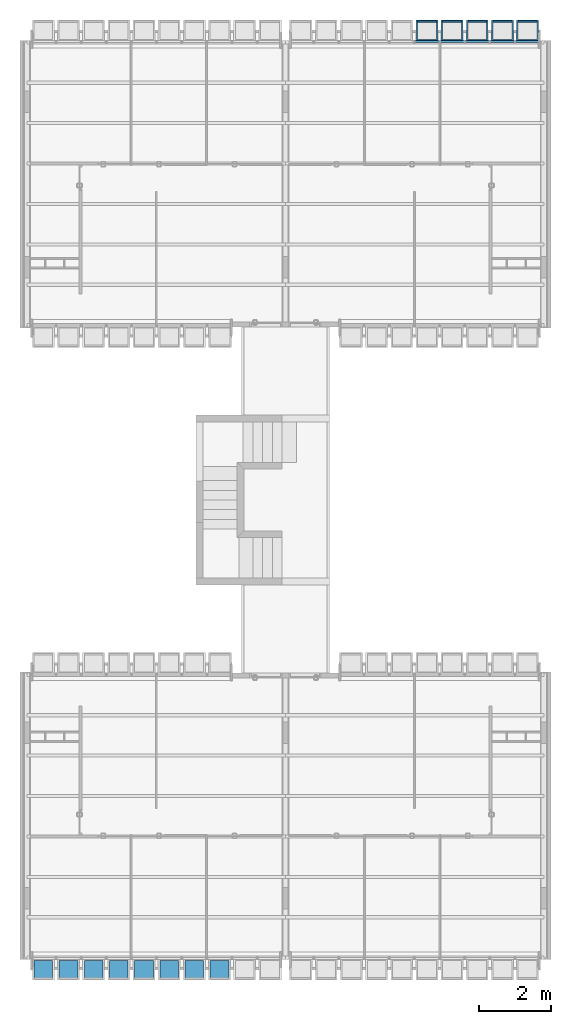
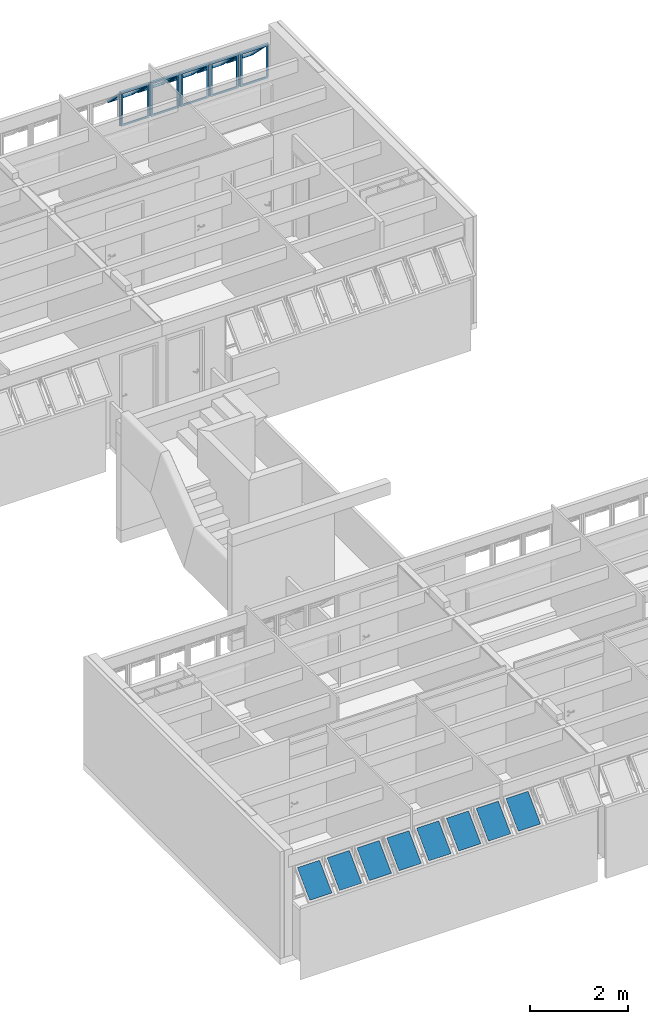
# One storey, part 34 of 37: 13 building element parts, 15 elements without a shape of their own.
"""IFC2X3 building model written with IfcOpenShell, lengths in millimetres."""

from ifc_helpers import new_model, entity, si_unit, converted_unit, derived_unit, money_unit, direction, frame, origin_with_axes, place, context, subcontext, project, spatial, faceted_brep, source, transform, mapped, material, type_object, element, aggregate, save


model = new_model("IFC2X3")

# Units and contexts
model_context = context("Model", 3, precision=0.01, world=origin_with_axes(), true_north=direction((0.0, 1.0)))
body_context = subcontext(model_context, "Body", "Model", "MODEL_VIEW")
ifc_project = project(units=[si_unit("LENGTHUNIT", "METRE", prefix="MILLI"), si_unit("AREAUNIT", "SQUARE_METRE"), si_unit("VOLUMEUNIT", "CUBIC_METRE"), converted_unit("PLANEANGLEUNIT", "DEGREE", entity("IfcPlaneAngleMeasure", 0.0174532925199), si_unit("PLANEANGLEUNIT", "RADIAN"), dimensions=[0, 0, 0, 0, 0, 0, 0]), money_unit("USD"), converted_unit("TIMEUNIT", "Year", entity("IfcTimeMeasure", 31556926.0), si_unit("TIMEUNIT", "SECOND"), dimensions=[0, 0, 1, 0, 0, 0, 0]), si_unit("MASSUNIT", "GRAM", prefix="KILO"), si_unit("THERMODYNAMICTEMPERATUREUNIT", "DEGREE_CELSIUS"), si_unit("LUMINOUSINTENSITYUNIT", "LUMEN"), si_unit("ENERGYUNIT", "JOULE", prefix="MEGA"), derived_unit("THERMALCONDUCTANCEUNIT", [(si_unit("POWERUNIT", "WATT"), 1), (si_unit("LENGTHUNIT", "METRE"), -1), (si_unit("THERMODYNAMICTEMPERATUREUNIT", "KELVIN"), -1)]), derived_unit("SPECIFICHEATCAPACITYUNIT", [(si_unit("ENERGYUNIT", "JOULE"), 1), (si_unit("MASSUNIT", "GRAM", prefix="KILO"), -1), (si_unit("THERMODYNAMICTEMPERATUREUNIT", "KELVIN"), -1)]), derived_unit("MASSDENSITYUNIT", [(si_unit("MASSUNIT", "GRAM", prefix="KILO"), 1), (si_unit("VOLUMEUNIT", "CUBIC_METRE"), -1)])], contexts=[model_context])

# Site, building, storey
site_placement = place(None, origin_with_axes())
site = spatial("IfcSite", under=ifc_project, at=site_placement, Name="Local", CompositionType="ELEMENT")
building_placement = place(site_placement, origin_with_axes())
building = spatial("IfcBuilding", under=site, at=building_placement, Name="Construção", CompositionType="ELEMENT")
storey_placement = place(building_placement, origin_with_axes())
storey = spatial("IfcBuildingStorey", under=building, at=storey_placement, Name="Primeiro Pavimento", CompositionType="ELEMENT", Elevation=0.0)

# Window, plate, building element part
window_style = type_object("IfcWindowStyle", Name="Tipo de Parede Cortina", ConstructionType="NOTDEFINED", OperationType="NOTDEFINED", ParameterTakesPrecedence=False, Sizeable=False)
window_1_placement = place(storey_placement, frame((8520.0, 25844.9790225, 1355.02054151), z_axis=(0.0, 0.0, 1.0), x_axis=(1.0, 0.0, 0.0)))
window_1 = element("IfcWindow", 1, at=window_1_placement, inside=storey, type_object=window_style, Name="APTO4-JANELA-001")
plate_type = type_object("IfcPlateType", Name="Painel Principal 690 x 845 x 20", PredefinedType="CURTAIN_PANEL")
plate_1_placement = place(window_1_placement, frame((3500.0, 0.0, 422.499945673), z_axis=(0.0, 0.0, 1.0), x_axis=(1.0, 0.0, 0.0)))
plate_1 = element("IfcPlate", 2, at=plate_1_placement, type_object=plate_type, Name="APTO4-Painel-Prin-013")
ifc_material_1 = material(Name="Alumínio")
shared_shape_1 = source(origin_with_axes(), body_context, "Body", "Brep", [
    faceted_brep([(25.0000036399, 0.0, -40.0), (674.999997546, 0.0, -40.0), (674.999997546, 0.0, -35.0), (25.0000036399, 0.0, -35.0), (70.0000036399, 45.0, -40.0), (629.999997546, 45.0, -40.0), (629.999997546, 45.0, -35.0), (70.0000036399, 45.0, -35.0)], [[[0, 1, 2, 3]], [[0, 4, 5, 1]], [[1, 5, 6, 2]], [[3, 2, 6, 7]], [[4, 0, 3, 7]], [[5, 4, 7, 6]]]),
    faceted_brep([(674.999997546, 0.0, -40.0), (674.999997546, 844.999891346, -40.0), (674.999997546, 844.999891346, -35.0), (674.999997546, 0.0, -35.0), (629.999997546, 45.0, -40.0), (629.999997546, 799.999891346, -40.0), (629.999997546, 799.999891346, -35.0), (629.999997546, 45.0, -35.0)], [[[0, 1, 2, 3]], [[0, 4, 5, 1]], [[1, 5, 6, 2]], [[3, 2, 6, 7]], [[4, 0, 3, 7]], [[5, 4, 7, 6]]]),
    faceted_brep([(25.0000036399, 844.999891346, -40.0), (70.0000036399, 799.999891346, -40.0), (70.0000036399, 799.999891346, -35.0), (25.0000036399, 844.999891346, -35.0), (674.999997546, 844.999891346, -40.0), (629.999997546, 799.999891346, -40.0), (629.999997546, 799.999891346, -35.0), (674.999997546, 844.999891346, -35.0)], [[[0, 1, 2, 3]], [[0, 4, 5, 1]], [[1, 5, 6, 2]], [[3, 2, 6, 7]], [[4, 0, 3, 7]], [[5, 4, 7, 6]]]),
    faceted_brep([(25.0000036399, 0.0, -40.0), (70.0000036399, 45.0, -40.0), (70.0000036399, 45.0, -35.0), (25.0000036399, 0.0, -35.0), (25.0000036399, 844.999891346, -40.0), (70.0000036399, 799.999891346, -40.0), (70.0000036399, 799.999891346, -35.0), (25.0000036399, 844.999891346, -35.0)], [[[0, 1, 2, 3]], [[0, 4, 5, 1]], [[1, 5, 6, 2]], [[3, 2, 6, 7]], [[4, 0, 3, 7]], [[5, 4, 7, 6]]]),
    faceted_brep([(25.0000036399, 0.0, -35.0), (674.999997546, 0.0, -35.0), (674.999997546, 0.0, 15.0), (25.0000036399, 0.0, 15.0), (45.0000036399, 20.0, -35.0), (654.999997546, 20.0, -35.0), (654.999997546, 20.0, 15.0), (45.0000036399, 20.0, 15.0)], [[[0, 1, 2, 3]], [[0, 4, 5, 1]], [[1, 5, 6, 2]], [[3, 2, 6, 7]], [[4, 0, 3, 7]], [[5, 4, 7, 6]]]),
    faceted_brep([(674.999997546, 0.0, -35.0), (674.999997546, 844.999891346, -35.0), (674.999997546, 844.999891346, 15.0), (674.999997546, 0.0, 15.0), (654.999997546, 20.0, -35.0), (654.999997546, 824.999891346, -35.0), (654.999997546, 824.999891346, 15.0), (654.999997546, 20.0, 15.0)], [[[0, 1, 2, 3]], [[0, 4, 5, 1]], [[1, 5, 6, 2]], [[3, 2, 6, 7]], [[4, 0, 3, 7]], [[5, 4, 7, 6]]]),
    faceted_brep([(25.0000036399, 844.999891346, -35.0), (45.0000036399, 824.999891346, -35.0), (45.0000036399, 824.999891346, 15.0), (25.0000036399, 844.999891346, 15.0), (674.999997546, 844.999891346, -35.0), (654.999997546, 824.999891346, -35.0), (654.999997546, 824.999891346, 15.0), (674.999997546, 844.999891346, 15.0)], [[[0, 1, 2, 3]], [[0, 4, 5, 1]], [[1, 5, 6, 2]], [[3, 2, 6, 7]], [[4, 0, 3, 7]], [[5, 4, 7, 6]]]),
    faceted_brep([(25.0000036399, 0.0, -35.0), (45.0000036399, 20.0, -35.0), (45.0000036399, 20.0, 15.0), (25.0000036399, 0.0, 15.0), (25.0000036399, 844.999891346, -35.0), (45.0000036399, 824.999891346, -35.0), (45.0000036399, 824.999891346, 15.0), (25.0000036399, 844.999891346, 15.0)], [[[0, 1, 2, 3]], [[0, 4, 5, 1]], [[1, 5, 6, 2]], [[3, 2, 6, 7]], [[4, 0, 3, 7]], [[5, 4, 7, 6]]]),
    faceted_brep([(694.999995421, 0.0, -10.0), (694.999995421, 844.999891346, -10.0), (694.999995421, 844.999891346, 10.0), (694.999995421, 0.0, 10.0), (674.999997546, 0.0, -10.0), (674.999997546, 844.999891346, -10.0), (674.999997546, 844.999891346, 10.0), (674.999997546, 0.0, 10.0)], [[[0, 1, 2, 3]], [[0, 4, 5, 1]], [[1, 5, 6, 2]], [[3, 2, 6, 7]], [[4, 0, 3, 7]], [[5, 4, 7, 6]]]),
    faceted_brep([(5.00000576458, 844.999891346, -10.0), (5.00000576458, 0.0, -10.0), (5.00000576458, 0.0, 10.0), (5.00000576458, 844.999891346, 10.0), (25.0000036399, 844.999891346, -10.0), (25.0000036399, 0.0, -10.0), (25.0000036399, 0.0, 10.0), (25.0000036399, 844.999891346, 10.0)], [[[0, 1, 2, 3]], [[0, 4, 5, 1]], [[1, 5, 6, 2]], [[3, 2, 6, 7]], [[4, 0, 3, 7]], [[5, 4, 7, 6]]]),
    faceted_brep([(90.0000036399, 252.243475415, 517.045737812), (90.0000036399, 757.824747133, 11.4644660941), (90.0000036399, 796.715620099, 50.3553390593), (90.0000036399, 291.13434838, 555.936610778), (45.0000036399, 220.423670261, 548.865542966), (45.0000036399, 789.644552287, -20.3553390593), (45.0000036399, 828.535425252, 18.5355339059), (45.0000036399, 259.314543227, 587.756415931)], [[[0, 1, 2, 3]], [[0, 4, 5, 1]], [[1, 5, 6, 2]], [[3, 2, 6, 7]], [[4, 0, 3, 7]], [[5, 4, 7, 6]]]),
    faceted_brep([(654.999997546, 220.423670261, 548.865542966), (654.999997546, 789.644552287, -20.3553390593), (654.999997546, 828.535425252, 18.5355339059), (654.999997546, 259.314543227, 587.756415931), (609.999997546, 252.243475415, 517.045737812), (609.999997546, 757.824747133, 11.4644660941), (609.999997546, 796.715620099, 50.3553390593), (609.999997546, 291.13434838, 555.936610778)], [[[0, 1, 2, 3]], [[0, 4, 5, 1]], [[1, 5, 6, 2]], [[3, 2, 6, 7]], [[4, 0, 3, 7]], [[5, 4, 7, 6]]]),
    faceted_brep([(654.999997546, 220.423670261, 548.865542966), (609.999997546, 252.243475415, 517.045737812), (609.999997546, 291.13434838, 555.936610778), (654.999997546, 259.314543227, 587.756415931), (45.0000036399, 220.423670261, 548.865542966), (90.0000036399, 252.243475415, 517.045737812), (90.0000036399, 291.13434838, 555.936610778), (45.0000036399, 259.314543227, 587.756415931)], [[[0, 1, 2, 3]], [[0, 4, 5, 1]], [[1, 5, 6, 2]], [[3, 2, 6, 7]], [[4, 0, 3, 7]], [[5, 4, 7, 6]]]),
    faceted_brep([(45.0000036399, 789.644552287, -20.3553390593), (90.0000036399, 757.824747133, 11.4644660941), (90.0000036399, 796.715620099, 50.3553390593), (45.0000036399, 828.535425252, 18.5355339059), (654.999997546, 789.644552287, -20.3553390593), (609.999997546, 757.824747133, 11.4644660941), (609.999997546, 796.715620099, 50.3553390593), (654.999997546, 828.535425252, 18.5355339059)], [[[0, 1, 2, 3]], [[0, 4, 5, 1]], [[1, 5, 6, 2]], [[3, 2, 6, 7]], [[4, 0, 3, 7]], [[5, 4, 7, 6]]]),
])
building_element_part_1_placement = place(plate_1_placement, origin_with_axes())
building_element_part_1 = element("IfcBuildingElementPart", 3, at=building_element_part_1_placement, material=ifc_material_1, Name="Alumínio", context=body_context, shape_type="MappedRepresentation", body=[
    mapped(shared_shape_1, transform((350.0, 0.0, -422.499945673), x_axis=(-1.0, 0.0, 0.0), y_axis=(0.0, 0.0, 1.0), z_axis=(0.0, 1.0, 0.0))),
])
aggregate(plate_1, [building_element_part_1])

# Window, plates, building element parts
window_2_placement = place(storey_placement, frame((294.999984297, 315.020977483, 1355.02054151), z_axis=(0.0, 0.0, 1.0), x_axis=(1.0, 0.0, 0.0)))
window_2 = element("IfcWindow", 4, at=window_2_placement, inside=storey, type_object=window_style, Name="APTO1-JANELA-001")
plate_2_placement = place(window_2_placement, frame((2455.0000157, 0.0, 422.499945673), z_axis=(0.0, 0.0, 1.0), x_axis=(-1.0, 0.0, 0.0)))
plate_2 = element("IfcPlate", 5, at=plate_2_placement, type_object=plate_type, Name="APTO1-Painel-Prin-013")
ifc_material_2 = material(Name="Vidro")
shared_shape_2 = source(origin_with_axes(), body_context, "Body", "Brep", [
    faceted_brep([(90.0000036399, 272.749572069, 537.551834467), (609.999997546, 272.749572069, 537.551834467), (609.999997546, 284.063280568, 548.865542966), (90.0000036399, 284.063280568, 548.865542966), (90.0000036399, 778.330843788, 31.9705627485), (609.999997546, 778.330843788, 31.9705627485), (609.999997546, 789.644552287, 43.2842712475), (90.0000036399, 789.644552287, 43.2842712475)], [[[0, 1, 2, 3]], [[0, 4, 5, 1]], [[1, 5, 6, 2]], [[3, 2, 6, 7]], [[4, 0, 3, 7]], [[5, 4, 7, 6]]]),
])
building_element_part_2_placement = place(plate_2_placement, origin_with_axes())
building_element_part_2 = element("IfcBuildingElementPart", 6, at=building_element_part_2_placement, material=ifc_material_2, Name="Vidro", context=body_context, shape_type="MappedRepresentation", body=[
    mapped(shared_shape_2, transform((350.0, 0.0, -422.499945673), x_axis=(-1.0, 0.0, 0.0), y_axis=(0.0, 0.0, 1.0), z_axis=(0.0, 1.0, 0.0))),
])
aggregate(plate_2, [building_element_part_2])
plate_3_placement = place(window_2_placement, frame((4555.0000157, 0.0, 422.499945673), z_axis=(0.0, 0.0, 1.0), x_axis=(-1.0, 0.0, 0.0)))
plate_3 = element("IfcPlate", 7, at=plate_3_placement, type_object=plate_type, Name="APTO1-Painel-Prin-029")
building_element_part_3_placement = place(plate_3_placement, origin_with_axes())
building_element_part_3 = element("IfcBuildingElementPart", 8, at=building_element_part_3_placement, material=ifc_material_2, Name="Vidro", context=body_context, shape_type="MappedRepresentation", body=[
    mapped(shared_shape_2, transform((350.0, 0.0, -422.499945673), x_axis=(-1.0, 0.0, 0.0), y_axis=(0.0, 0.0, 1.0), z_axis=(0.0, 1.0, 0.0))),
])
aggregate(plate_3, [building_element_part_3])
plate_4_placement = place(window_2_placement, frame((5255.0000157, 0.0, 422.499945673), z_axis=(0.0, 0.0, 1.0), x_axis=(-1.0, 0.0, 0.0)))
plate_4 = element("IfcPlate", 9, at=plate_4_placement, type_object=plate_type, Name="APTO1-Painel-Prin-020")
building_element_part_4_placement = place(plate_4_placement, origin_with_axes())
building_element_part_4 = element("IfcBuildingElementPart", 10, at=building_element_part_4_placement, material=ifc_material_2, Name="Vidro", context=body_context, shape_type="MappedRepresentation", body=[
    mapped(shared_shape_2, transform((350.0, 0.0, -422.499945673), x_axis=(-1.0, 0.0, 0.0), y_axis=(0.0, 0.0, 1.0), z_axis=(0.0, 1.0, 0.0))),
])
aggregate(plate_4, [building_element_part_4])

# Plate, building element part
plate_5_placement = place(window_1_placement, frame((5600.0, 0.0, 422.499945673), z_axis=(0.0, 0.0, 1.0), x_axis=(1.0, 0.0, 0.0)))
plate_5 = element("IfcPlate", 11, at=plate_5_placement, type_object=plate_type, Name="APTO4-Painel-Prin-013")
shared_shape_3 = source(origin_with_axes(), body_context, "Body", "Brep", [
    faceted_brep([(25.0000036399, 0.0, -40.0), (674.999997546, 0.0, -40.0), (674.999997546, 0.0, -35.0), (25.0000036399, 0.0, -35.0), (70.0000036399, 45.0, -40.0), (629.999997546, 45.0, -40.0), (629.999997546, 45.0, -35.0), (70.0000036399, 45.0, -35.0)], [[[0, 1, 2, 3]], [[0, 4, 5, 1]], [[1, 5, 6, 2]], [[3, 2, 6, 7]], [[4, 0, 3, 7]], [[5, 4, 7, 6]]]),
    faceted_brep([(674.999997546, 0.0, -40.0), (674.999997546, 844.999891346, -40.0), (674.999997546, 844.999891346, -35.0), (674.999997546, 0.0, -35.0), (629.999997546, 45.0, -40.0), (629.999997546, 799.999891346, -40.0), (629.999997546, 799.999891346, -35.0), (629.999997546, 45.0, -35.0)], [[[0, 1, 2, 3]], [[0, 4, 5, 1]], [[1, 5, 6, 2]], [[3, 2, 6, 7]], [[4, 0, 3, 7]], [[5, 4, 7, 6]]]),
    faceted_brep([(25.0000036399, 844.999891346, -40.0), (70.0000036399, 799.999891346, -40.0), (70.0000036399, 799.999891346, -35.0), (25.0000036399, 844.999891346, -35.0), (674.999997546, 844.999891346, -40.0), (629.999997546, 799.999891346, -40.0), (629.999997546, 799.999891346, -35.0), (674.999997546, 844.999891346, -35.0)], [[[0, 1, 2, 3]], [[0, 4, 5, 1]], [[1, 5, 6, 2]], [[3, 2, 6, 7]], [[4, 0, 3, 7]], [[5, 4, 7, 6]]]),
    faceted_brep([(25.0000036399, 0.0, -40.0), (70.0000036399, 45.0, -40.0), (70.0000036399, 45.0, -35.0), (25.0000036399, 0.0, -35.0), (25.0000036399, 844.999891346, -40.0), (70.0000036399, 799.999891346, -40.0), (70.0000036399, 799.999891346, -35.0), (25.0000036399, 844.999891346, -35.0)], [[[0, 1, 2, 3]], [[0, 4, 5, 1]], [[1, 5, 6, 2]], [[3, 2, 6, 7]], [[4, 0, 3, 7]], [[5, 4, 7, 6]]]),
    faceted_brep([(25.0000036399, 0.0, -35.0), (674.999997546, 0.0, -35.0), (674.999997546, 0.0, 15.0), (25.0000036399, 0.0, 15.0), (45.0000036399, 20.0, -35.0), (654.999997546, 20.0, -35.0), (654.999997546, 20.0, 15.0), (45.0000036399, 20.0, 15.0)], [[[0, 1, 2, 3]], [[0, 4, 5, 1]], [[1, 5, 6, 2]], [[3, 2, 6, 7]], [[4, 0, 3, 7]], [[5, 4, 7, 6]]]),
    faceted_brep([(674.999997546, 0.0, -35.0), (674.999997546, 844.999891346, -35.0), (674.999997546, 844.999891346, 15.0), (674.999997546, 0.0, 15.0), (654.999997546, 20.0, -35.0), (654.999997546, 824.999891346, -35.0), (654.999997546, 824.999891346, 15.0), (654.999997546, 20.0, 15.0)], [[[0, 1, 2, 3]], [[0, 4, 5, 1]], [[1, 5, 6, 2]], [[3, 2, 6, 7]], [[4, 0, 3, 7]], [[5, 4, 7, 6]]]),
    faceted_brep([(25.0000036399, 844.999891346, -35.0), (45.0000036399, 824.999891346, -35.0), (45.0000036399, 824.999891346, 15.0), (25.0000036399, 844.999891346, 15.0), (674.999997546, 844.999891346, -35.0), (654.999997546, 824.999891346, -35.0), (654.999997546, 824.999891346, 15.0), (674.999997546, 844.999891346, 15.0)], [[[0, 1, 2, 3]], [[0, 4, 5, 1]], [[1, 5, 6, 2]], [[3, 2, 6, 7]], [[4, 0, 3, 7]], [[5, 4, 7, 6]]]),
    faceted_brep([(25.0000036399, 0.0, -35.0), (45.0000036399, 20.0, -35.0), (45.0000036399, 20.0, 15.0), (25.0000036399, 0.0, 15.0), (25.0000036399, 844.999891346, -35.0), (45.0000036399, 824.999891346, -35.0), (45.0000036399, 824.999891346, 15.0), (25.0000036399, 844.999891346, 15.0)], [[[0, 1, 2, 3]], [[0, 4, 5, 1]], [[1, 5, 6, 2]], [[3, 2, 6, 7]], [[4, 0, 3, 7]], [[5, 4, 7, 6]]]),
    faceted_brep([(694.999995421, 0.0, -10.0), (694.999995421, 844.999891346, -10.0), (694.999995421, 844.999891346, 10.0), (694.999995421, 0.0, 10.0), (674.999997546, 0.0, -10.0), (674.999997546, 844.999891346, -10.0), (674.999997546, 844.999891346, 10.0), (674.999997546, 0.0, 10.0)], [[[0, 1, 2, 3]], [[0, 4, 5, 1]], [[1, 5, 6, 2]], [[3, 2, 6, 7]], [[4, 0, 3, 7]], [[5, 4, 7, 6]]]),
    faceted_brep([(5.00000576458, 844.999891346, -10.0), (5.00000576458, 0.0, -10.0), (5.00000576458, 0.0, 10.0), (5.00000576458, 844.999891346, 10.0), (25.0000036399, 844.999891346, -10.0), (25.0000036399, 0.0, -10.0), (25.0000036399, 0.0, 10.0), (25.0000036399, 844.999891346, 10.0)], [[[0, 1, 2, 3]], [[0, 4, 5, 1]], [[1, 5, 6, 2]], [[3, 2, 6, 7]], [[4, 0, 3, 7]], [[5, 4, 7, 6]]]),
    faceted_brep([(90.0000036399, 252.243475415, 517.045737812), (90.0000036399, 757.824747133, 11.4644660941), (90.0000036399, 796.715620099, 50.3553390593), (90.0000036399, 291.13434838, 555.936610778), (45.0000036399, 220.423670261, 548.865542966), (45.0000036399, 789.644552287, -20.3553390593), (45.0000036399, 828.535425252, 18.5355339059), (45.0000036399, 259.314543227, 587.756415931)], [[[0, 1, 2, 3]], [[0, 4, 5, 1]], [[1, 5, 6, 2]], [[3, 2, 6, 7]], [[4, 0, 3, 7]], [[5, 4, 7, 6]]]),
    faceted_brep([(654.999997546, 220.423670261, 548.865542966), (654.999997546, 789.644552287, -20.3553390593), (654.999997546, 828.535425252, 18.5355339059), (654.999997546, 259.314543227, 587.756415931), (609.999997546, 252.243475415, 517.045737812), (609.999997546, 757.824747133, 11.4644660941), (609.999997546, 796.715620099, 50.3553390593), (609.999997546, 291.13434838, 555.936610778)], [[[0, 1, 2, 3]], [[0, 4, 5, 1]], [[1, 5, 6, 2]], [[3, 2, 6, 7]], [[4, 0, 3, 7]], [[5, 4, 7, 6]]]),
    faceted_brep([(654.999997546, 220.423670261, 548.865542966), (609.999997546, 252.243475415, 517.045737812), (609.999997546, 291.13434838, 555.936610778), (654.999997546, 259.314543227, 587.756415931), (45.0000036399, 220.423670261, 548.865542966), (90.0000036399, 252.243475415, 517.045737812), (90.0000036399, 291.13434838, 555.936610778), (45.0000036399, 259.314543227, 587.756415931)], [[[0, 1, 2, 3]], [[0, 4, 5, 1]], [[1, 5, 6, 2]], [[3, 2, 6, 7]], [[4, 0, 3, 7]], [[5, 4, 7, 6]]]),
    faceted_brep([(45.0000036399, 789.644552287, -20.3553390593), (90.0000036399, 757.824747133, 11.4644660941), (90.0000036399, 796.715620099, 50.3553390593), (45.0000036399, 828.535425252, 18.5355339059), (654.999997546, 789.644552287, -20.3553390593), (609.999997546, 757.824747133, 11.4644660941), (609.999997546, 796.715620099, 50.3553390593), (654.999997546, 828.535425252, 18.5355339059)], [[[0, 1, 2, 3]], [[0, 4, 5, 1]], [[1, 5, 6, 2]], [[3, 2, 6, 7]], [[4, 0, 3, 7]], [[5, 4, 7, 6]]]),
])
building_element_part_5_placement = place(plate_5_placement, origin_with_axes())
building_element_part_5 = element("IfcBuildingElementPart", 12, at=building_element_part_5_placement, material=ifc_material_1, Name="Alumínio", context=body_context, shape_type="MappedRepresentation", body=[
    mapped(shared_shape_3, transform((350.0, 0.0, -422.499945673), x_axis=(-1.0, 0.0, 0.0), y_axis=(0.0, 0.0, 1.0), z_axis=(0.0, 1.0, 0.0))),
])
aggregate(plate_5, [building_element_part_5])

plate_6_placement = place(window_1_placement, frame((4900.0, 0.0, 422.499945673), z_axis=(0.0, 0.0, 1.0), x_axis=(1.0, 0.0, 0.0)))
plate_6 = element("IfcPlate", 13, at=plate_6_placement, type_object=plate_type, Name="APTO4-Painel-Prin-013")
building_element_part_6_placement = place(plate_6_placement, origin_with_axes())
building_element_part_6 = element("IfcBuildingElementPart", 14, at=building_element_part_6_placement, material=ifc_material_1, Name="Alumínio", context=body_context, shape_type="MappedRepresentation", body=[
    mapped(shared_shape_3, transform((350.0, 0.0, -422.499945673), x_axis=(-1.0, 0.0, 0.0), y_axis=(0.0, 0.0, 1.0), z_axis=(0.0, 1.0, 0.0))),
])
aggregate(plate_6, [building_element_part_6])

plate_7_placement = place(window_2_placement, frame((3855.0000157, 0.0, 422.499945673), z_axis=(0.0, 0.0, 1.0), x_axis=(-1.0, 0.0, 0.0)))
plate_7 = element("IfcPlate", 15, at=plate_7_placement, type_object=plate_type, Name="APTO1-Painel-Prin-025")
shared_shape_4 = source(origin_with_axes(), body_context, "Body", "Brep", [
    faceted_brep([(90.0000036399, 272.749572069, 537.551834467), (609.999997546, 272.749572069, 537.551834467), (609.999997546, 284.063280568, 548.865542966), (90.0000036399, 284.063280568, 548.865542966), (90.0000036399, 778.330843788, 31.9705627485), (609.999997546, 778.330843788, 31.9705627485), (609.999997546, 789.644552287, 43.2842712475), (90.0000036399, 789.644552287, 43.2842712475)], [[[0, 1, 2, 3]], [[0, 4, 5, 1]], [[1, 5, 6, 2]], [[3, 2, 6, 7]], [[4, 0, 3, 7]], [[5, 4, 7, 6]]]),
])
building_element_part_7_placement = place(plate_7_placement, origin_with_axes())
building_element_part_7 = element("IfcBuildingElementPart", 16, at=building_element_part_7_placement, material=ifc_material_2, Name="Vidro", context=body_context, shape_type="MappedRepresentation", body=[
    mapped(shared_shape_4, transform((350.0, 0.0, -422.499945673), x_axis=(-1.0, 0.0, 0.0), y_axis=(0.0, 0.0, 1.0), z_axis=(0.0, 1.0, 0.0))),
])
aggregate(plate_7, [building_element_part_7])

plate_8_placement = place(window_2_placement, frame((1055.0000157, 0.0, 422.499945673), z_axis=(0.0, 0.0, 1.0), x_axis=(-1.0, 0.0, 0.0)))
plate_8 = element("IfcPlate", 17, at=plate_8_placement, type_object=plate_type, Name="APTO1-Painel-Prin-013")
building_element_part_8_placement = place(plate_8_placement, origin_with_axes())
building_element_part_8 = element("IfcBuildingElementPart", 18, at=building_element_part_8_placement, material=ifc_material_2, Name="Vidro", context=body_context, shape_type="MappedRepresentation", body=[
    mapped(shared_shape_4, transform((350.0, 0.0, -422.499945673), x_axis=(-1.0, 0.0, 0.0), y_axis=(0.0, 0.0, 1.0), z_axis=(0.0, 1.0, 0.0))),
])
aggregate(plate_8, [building_element_part_8])

plate_9_placement = place(window_2_placement, frame((355.000015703, 0.0, 422.499945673), z_axis=(0.0, 0.0, 1.0), x_axis=(-1.0, 0.0, 0.0)))
plate_9 = element("IfcPlate", 19, at=plate_9_placement, type_object=plate_type, Name="APTO1-Painel-Prin-013")
building_element_part_9_placement = place(plate_9_placement, origin_with_axes())
building_element_part_9 = element("IfcBuildingElementPart", 20, at=building_element_part_9_placement, material=ifc_material_2, Name="Vidro", context=body_context, shape_type="MappedRepresentation", body=[
    mapped(shared_shape_4, transform((350.0, 0.0, -422.499945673), x_axis=(-1.0, 0.0, 0.0), y_axis=(0.0, 0.0, 1.0), z_axis=(0.0, 1.0, 0.0))),
])
aggregate(plate_9, [building_element_part_9])

plate_10_placement = place(window_1_placement, frame((2800.0, 0.0, 422.499945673), z_axis=(0.0, 0.0, 1.0), x_axis=(1.0, 0.0, 0.0)))
plate_10 = element("IfcPlate", 21, at=plate_10_placement, type_object=plate_type, Name="APTO4-Painel-Prin-013")
shared_shape_5 = source(origin_with_axes(), body_context, "Body", "Brep", [
    faceted_brep([(25.0000036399, 0.0, -40.0), (674.999997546, 0.0, -40.0), (674.999997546, 0.0, -35.0), (25.0000036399, 0.0, -35.0), (70.0000036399, 45.0, -40.0), (629.999997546, 45.0, -40.0), (629.999997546, 45.0, -35.0), (70.0000036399, 45.0, -35.0)], [[[0, 1, 2, 3]], [[0, 4, 5, 1]], [[1, 5, 6, 2]], [[3, 2, 6, 7]], [[4, 0, 3, 7]], [[5, 4, 7, 6]]]),
    faceted_brep([(674.999997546, 0.0, -40.0), (674.999997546, 844.999891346, -40.0), (674.999997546, 844.999891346, -35.0), (674.999997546, 0.0, -35.0), (629.999997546, 45.0, -40.0), (629.999997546, 799.999891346, -40.0), (629.999997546, 799.999891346, -35.0), (629.999997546, 45.0, -35.0)], [[[0, 1, 2, 3]], [[0, 4, 5, 1]], [[1, 5, 6, 2]], [[3, 2, 6, 7]], [[4, 0, 3, 7]], [[5, 4, 7, 6]]]),
    faceted_brep([(25.0000036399, 844.999891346, -40.0), (70.0000036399, 799.999891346, -40.0), (70.0000036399, 799.999891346, -35.0), (25.0000036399, 844.999891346, -35.0), (674.999997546, 844.999891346, -40.0), (629.999997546, 799.999891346, -40.0), (629.999997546, 799.999891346, -35.0), (674.999997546, 844.999891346, -35.0)], [[[0, 1, 2, 3]], [[0, 4, 5, 1]], [[1, 5, 6, 2]], [[3, 2, 6, 7]], [[4, 0, 3, 7]], [[5, 4, 7, 6]]]),
    faceted_brep([(25.0000036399, 0.0, -40.0), (70.0000036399, 45.0, -40.0), (70.0000036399, 45.0, -35.0), (25.0000036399, 0.0, -35.0), (25.0000036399, 844.999891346, -40.0), (70.0000036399, 799.999891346, -40.0), (70.0000036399, 799.999891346, -35.0), (25.0000036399, 844.999891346, -35.0)], [[[0, 1, 2, 3]], [[0, 4, 5, 1]], [[1, 5, 6, 2]], [[3, 2, 6, 7]], [[4, 0, 3, 7]], [[5, 4, 7, 6]]]),
    faceted_brep([(25.0000036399, 0.0, -35.0), (674.999997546, 0.0, -35.0), (674.999997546, 0.0, 15.0), (25.0000036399, 0.0, 15.0), (45.0000036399, 20.0, -35.0), (654.999997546, 20.0, -35.0), (654.999997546, 20.0, 15.0), (45.0000036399, 20.0, 15.0)], [[[0, 1, 2, 3]], [[0, 4, 5, 1]], [[1, 5, 6, 2]], [[3, 2, 6, 7]], [[4, 0, 3, 7]], [[5, 4, 7, 6]]]),
    faceted_brep([(674.999997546, 0.0, -35.0), (674.999997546, 844.999891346, -35.0), (674.999997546, 844.999891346, 15.0), (674.999997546, 0.0, 15.0), (654.999997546, 20.0, -35.0), (654.999997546, 824.999891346, -35.0), (654.999997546, 824.999891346, 15.0), (654.999997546, 20.0, 15.0)], [[[0, 1, 2, 3]], [[0, 4, 5, 1]], [[1, 5, 6, 2]], [[3, 2, 6, 7]], [[4, 0, 3, 7]], [[5, 4, 7, 6]]]),
    faceted_brep([(25.0000036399, 844.999891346, -35.0), (45.0000036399, 824.999891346, -35.0), (45.0000036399, 824.999891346, 15.0), (25.0000036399, 844.999891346, 15.0), (674.999997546, 844.999891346, -35.0), (654.999997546, 824.999891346, -35.0), (654.999997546, 824.999891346, 15.0), (674.999997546, 844.999891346, 15.0)], [[[0, 1, 2, 3]], [[0, 4, 5, 1]], [[1, 5, 6, 2]], [[3, 2, 6, 7]], [[4, 0, 3, 7]], [[5, 4, 7, 6]]]),
    faceted_brep([(25.0000036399, 0.0, -35.0), (45.0000036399, 20.0, -35.0), (45.0000036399, 20.0, 15.0), (25.0000036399, 0.0, 15.0), (25.0000036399, 844.999891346, -35.0), (45.0000036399, 824.999891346, -35.0), (45.0000036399, 824.999891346, 15.0), (25.0000036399, 844.999891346, 15.0)], [[[0, 1, 2, 3]], [[0, 4, 5, 1]], [[1, 5, 6, 2]], [[3, 2, 6, 7]], [[4, 0, 3, 7]], [[5, 4, 7, 6]]]),
    faceted_brep([(694.999995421, 0.0, -10.0), (694.999995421, 844.999891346, -10.0), (694.999995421, 844.999891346, 10.0), (694.999995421, 0.0, 10.0), (674.999997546, 0.0, -10.0), (674.999997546, 844.999891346, -10.0), (674.999997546, 844.999891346, 10.0), (674.999997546, 0.0, 10.0)], [[[0, 1, 2, 3]], [[0, 4, 5, 1]], [[1, 5, 6, 2]], [[3, 2, 6, 7]], [[4, 0, 3, 7]], [[5, 4, 7, 6]]]),
    faceted_brep([(5.00000576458, 844.999891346, -10.0), (5.00000576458, 0.0, -10.0), (5.00000576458, 0.0, 10.0), (5.00000576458, 844.999891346, 10.0), (25.0000036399, 844.999891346, -10.0), (25.0000036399, 0.0, -10.0), (25.0000036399, 0.0, 10.0), (25.0000036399, 844.999891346, 10.0)], [[[0, 1, 2, 3]], [[0, 4, 5, 1]], [[1, 5, 6, 2]], [[3, 2, 6, 7]], [[4, 0, 3, 7]], [[5, 4, 7, 6]]]),
    faceted_brep([(90.0000036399, 252.243475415, 517.045737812), (90.0000036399, 757.824747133, 11.4644660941), (90.0000036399, 796.715620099, 50.3553390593), (90.0000036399, 291.13434838, 555.936610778), (45.0000036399, 220.423670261, 548.865542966), (45.0000036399, 789.644552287, -20.3553390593), (45.0000036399, 828.535425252, 18.5355339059), (45.0000036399, 259.314543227, 587.756415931)], [[[0, 1, 2, 3]], [[0, 4, 5, 1]], [[1, 5, 6, 2]], [[3, 2, 6, 7]], [[4, 0, 3, 7]], [[5, 4, 7, 6]]]),
    faceted_brep([(654.999997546, 220.423670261, 548.865542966), (654.999997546, 789.644552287, -20.3553390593), (654.999997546, 828.535425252, 18.5355339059), (654.999997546, 259.314543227, 587.756415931), (609.999997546, 252.243475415, 517.045737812), (609.999997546, 757.824747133, 11.4644660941), (609.999997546, 796.715620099, 50.3553390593), (609.999997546, 291.13434838, 555.936610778)], [[[0, 1, 2, 3]], [[0, 4, 5, 1]], [[1, 5, 6, 2]], [[3, 2, 6, 7]], [[4, 0, 3, 7]], [[5, 4, 7, 6]]]),
    faceted_brep([(654.999997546, 220.423670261, 548.865542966), (609.999997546, 252.243475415, 517.045737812), (609.999997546, 291.13434838, 555.936610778), (654.999997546, 259.314543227, 587.756415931), (45.0000036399, 220.423670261, 548.865542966), (90.0000036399, 252.243475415, 517.045737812), (90.0000036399, 291.13434838, 555.936610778), (45.0000036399, 259.314543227, 587.756415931)], [[[0, 1, 2, 3]], [[0, 4, 5, 1]], [[1, 5, 6, 2]], [[3, 2, 6, 7]], [[4, 0, 3, 7]], [[5, 4, 7, 6]]]),
    faceted_brep([(45.0000036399, 789.644552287, -20.3553390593), (90.0000036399, 757.824747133, 11.4644660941), (90.0000036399, 796.715620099, 50.3553390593), (45.0000036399, 828.535425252, 18.5355339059), (654.999997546, 789.644552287, -20.3553390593), (609.999997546, 757.824747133, 11.4644660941), (609.999997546, 796.715620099, 50.3553390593), (654.999997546, 828.535425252, 18.5355339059)], [[[0, 1, 2, 3]], [[0, 4, 5, 1]], [[1, 5, 6, 2]], [[3, 2, 6, 7]], [[4, 0, 3, 7]], [[5, 4, 7, 6]]]),
])
building_element_part_10_placement = place(plate_10_placement, origin_with_axes())
building_element_part_10 = element("IfcBuildingElementPart", 22, at=building_element_part_10_placement, material=ifc_material_1, Name="Alumínio", context=body_context, shape_type="MappedRepresentation", body=[
    mapped(shared_shape_5, transform((350.0, 0.0, -422.499945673), x_axis=(-1.0, 0.0, 0.0), y_axis=(0.0, 0.0, 1.0), z_axis=(0.0, 1.0, 0.0))),
])
aggregate(plate_10, [building_element_part_10])

# Plate
plate_11_placement = place(window_1_placement, frame((4200.0, 0.0, 422.499945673), z_axis=(0.0, 0.0, 1.0), x_axis=(1.0, 0.0, 0.0)))
plate_11 = element("IfcPlate", 23, at=plate_11_placement, type_object=plate_type, Name="APTO4-Painel-Prin-013")

aggregate(window_1, [plate_5, plate_6, plate_10, plate_11, plate_1])

# Building element part
building_element_part_11_placement = place(plate_11_placement, origin_with_axes())
building_element_part_11 = element("IfcBuildingElementPart", 24, at=building_element_part_11_placement, material=ifc_material_1, Name="Alumínio", context=body_context, shape_type="MappedRepresentation", body=[
    mapped(shared_shape_5, transform((350.0, 0.0, -422.499945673), x_axis=(-1.0, 0.0, 0.0), y_axis=(0.0, 0.0, 1.0), z_axis=(0.0, 1.0, 0.0))),
])

aggregate(plate_11, [building_element_part_11])

# Plate, building element part
plate_12_placement = place(window_2_placement, frame((1755.0000157, 0.0, 422.499945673), z_axis=(0.0, 0.0, 1.0), x_axis=(-1.0, 0.0, 0.0)))
plate_12 = element("IfcPlate", 25, at=plate_12_placement, type_object=plate_type, Name="APTO1-Painel-Prin-013")
shared_shape_6 = source(origin_with_axes(), body_context, "Body", "Brep", [
    faceted_brep([(90.0000036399, 272.749572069, 537.551834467), (609.999997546, 272.749572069, 537.551834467), (609.999997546, 284.063280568, 548.865542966), (90.0000036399, 284.063280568, 548.865542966), (90.0000036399, 778.330843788, 31.9705627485), (609.999997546, 778.330843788, 31.9705627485), (609.999997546, 789.644552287, 43.2842712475), (90.0000036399, 789.644552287, 43.2842712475)], [[[0, 1, 2, 3]], [[0, 4, 5, 1]], [[1, 5, 6, 2]], [[3, 2, 6, 7]], [[4, 0, 3, 7]], [[5, 4, 7, 6]]]),
])
building_element_part_12_placement = place(plate_12_placement, origin_with_axes())
building_element_part_12 = element("IfcBuildingElementPart", 26, at=building_element_part_12_placement, material=ifc_material_2, Name="Vidro", context=body_context, shape_type="MappedRepresentation", body=[
    mapped(shared_shape_6, transform((350.0, 0.0, -422.499945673), x_axis=(-1.0, 0.0, 0.0), y_axis=(0.0, 0.0, 1.0), z_axis=(0.0, 1.0, 0.0))),
])
aggregate(plate_12, [building_element_part_12])

# Plate
plate_13_placement = place(window_2_placement, frame((3155.0000157, 0.0, 422.499945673), z_axis=(0.0, 0.0, 1.0), x_axis=(-1.0, 0.0, 0.0)))
plate_13 = element("IfcPlate", 27, at=plate_13_placement, type_object=plate_type, Name="APTO1-Painel-Prin-013")

aggregate(window_2, [plate_2, plate_3, plate_12, plate_4, plate_7, plate_13, plate_8, plate_9])

# Building element part
building_element_part_13_placement = place(plate_13_placement, origin_with_axes())
building_element_part_13 = element("IfcBuildingElementPart", 28, at=building_element_part_13_placement, material=ifc_material_2, Name="Vidro", context=body_context, shape_type="MappedRepresentation", body=[
    mapped(shared_shape_6, transform((350.0, 0.0, -422.499945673), x_axis=(-1.0, 0.0, 0.0), y_axis=(0.0, 0.0, 1.0), z_axis=(0.0, 1.0, 0.0))),
])

aggregate(plate_13, [building_element_part_13])

save(model, "model.ifc")
